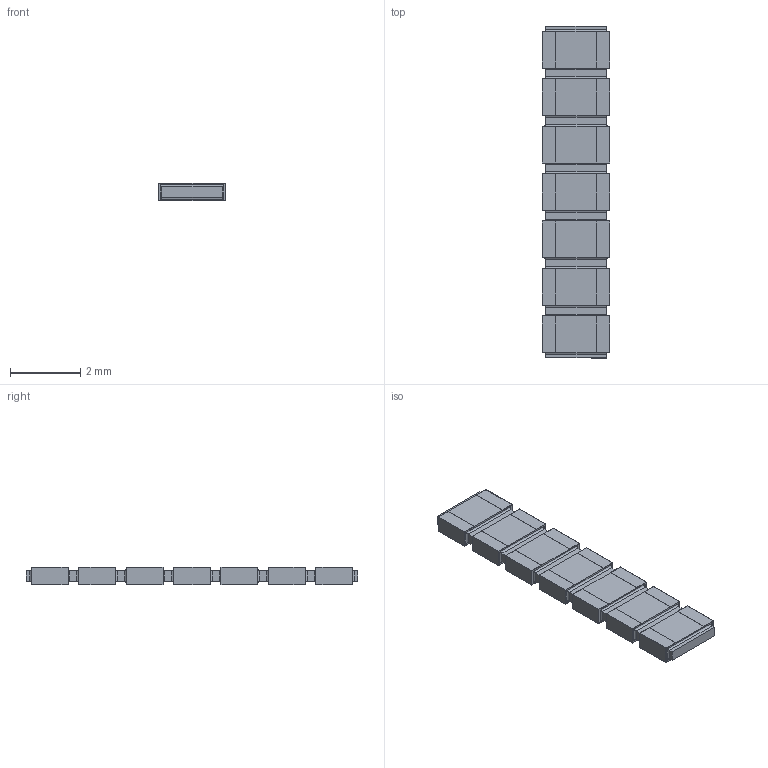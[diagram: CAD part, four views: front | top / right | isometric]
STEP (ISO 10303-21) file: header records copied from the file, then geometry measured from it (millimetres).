
FILE_DESCRIPTION(/* description */ (''),/* implementation_level */ '2;1');
FILE_NAME(/* name */ 'S:\DOCUMENT\AUTOCAD\3D_Modèles\10_3D-pour-VISHAY-COM\PRA\PRA135\PRA135-I2_à_I8\10_IGES\PRA135I7_B-or-N-or-G.stp',/* time_stamp */ '2017-12-18T12:07:46+01:00',/* author */ ('dparmentier'),/* organization */ ('unknown'),/* preprocessor_version */ 'ST-DEVELOPER v17',/* originating_system */ 'Autodesk Inventor 2018',/* authorisation */ '');
FILE_SCHEMA (('AUTOMOTIVE_DESIGN { 1 0 10303 214 3 1 1 }'));
Length unit declared in the file: millimetre
Products named in the file (1): PRA135I7_B-or-N-or-G
Bounding box: 1.91 x 9.45 x 0.5 mm (x, y, z)
Volume: 8 mm3; surface area: 86.3 mm2
Topology: 15 solids, 15 shells, 272 faces, 628 edges, 400 vertices
Faces by surface type: plane 216, cylinder 56
Entity records: 7559 total; most frequent: CARTESIAN_POINT 1301, ORIENTED_EDGE 1256, DIRECTION 1230, EDGE_CURVE 628, LINE 572, VECTOR 572, VERTEX_POINT 400, AXIS2_PLACEMENT_3D 329
